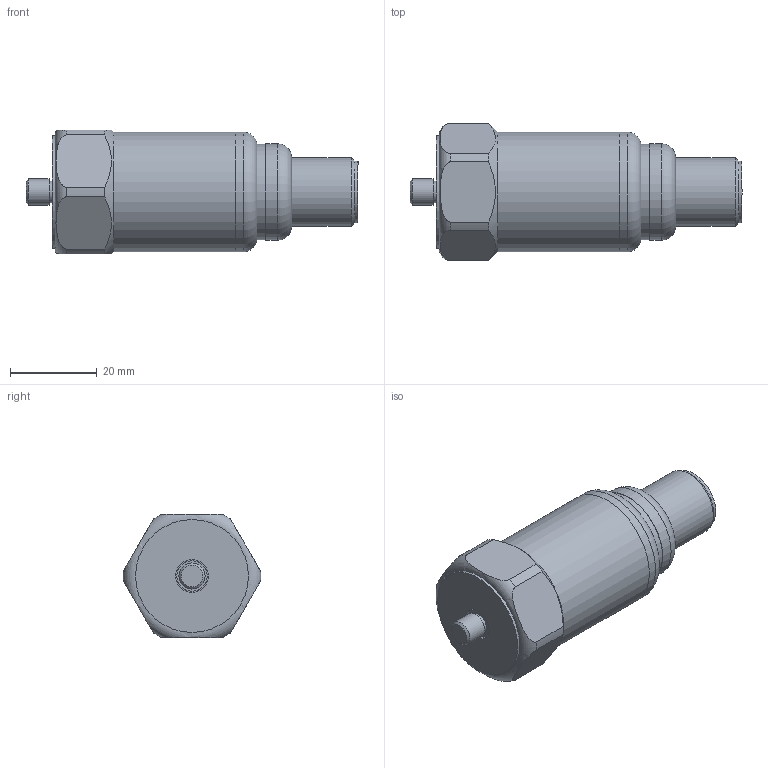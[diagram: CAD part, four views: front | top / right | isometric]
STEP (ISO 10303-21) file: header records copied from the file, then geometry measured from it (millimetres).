
FILE_DESCRIPTION(/* description */ (''),/* implementation_level */ '2;1');
FILE_NAME(/* name */ 'Z:\Engineering\Drawings\3D Library\Assemblies\Website\HS-420XXX5006.stp',/* time_stamp */ '2023-04-05T21:30:10+01:00',/* author */ ('Ricardo.Peneda'),/* organization */ (''),/* preprocessor_version */ 'ST-DEVELOPER v18.1',/* originating_system */ 'Autodesk Inventor 2021',/* authorisation */ '');
FILE_SCHEMA (('AUTOMOTIVE_DESIGN { 1 0 10303 214 3 1 1 }'));
Length unit declared in the file: inch
Products named in the file (1): HS-420XXX5006_Shrinkwrap_1
Bounding box: 76.47 x 31.69 x 28.5 mm (x, y, z)
Volume: 15878.2 mm3; surface area: 12074.9 mm2
Topology: 4 solids, 4 shells, 61 faces, 158 edges, 116 vertices
Faces by surface type: cylinder 26, plane 25, cone 6, torus 4
Full cylindrical faces by diameter (mm): 5 x2, 6 x1, 6.3 x1, 6.35 x1, 7 x1, 7.5 x1, 11.37 x1, 14.28 x1, 15.7 x1, 19 x1, 20 x1, 22 x1, 22.2 x1, 23.3 x1, 25.3 x2, 26 x1, 27.5 x2
Entity records: 2190 total; most frequent: CARTESIAN_POINT 482, DIRECTION 374, ORIENTED_EDGE 316, AXIS2_PLACEMENT_3D 168, EDGE_CURVE 158, VERTEX_POINT 116, CIRCLE 106, EDGE_LOOP 74
